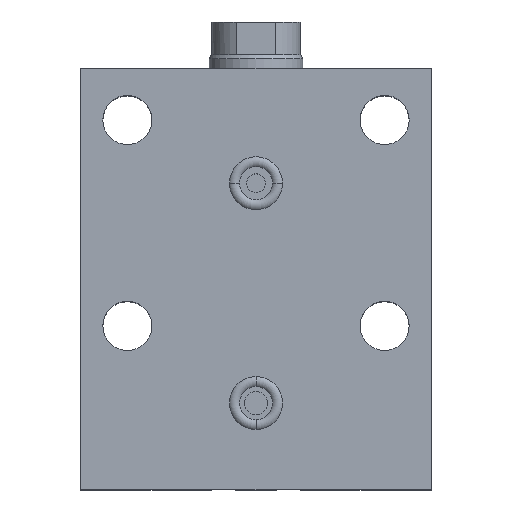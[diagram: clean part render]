
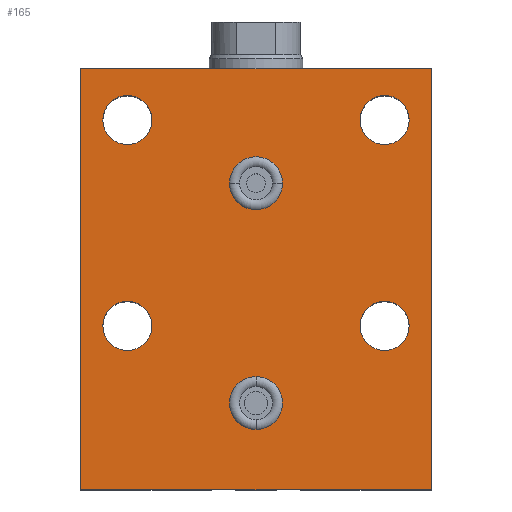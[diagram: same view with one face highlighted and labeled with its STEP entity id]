
A CAD part, top view. The second image highlights one B-rep face of the part: STEP entity #165.
In plain terms, the highlighted planar face has unit normal (0, 0, 1).
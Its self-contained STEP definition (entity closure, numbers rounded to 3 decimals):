
#30 = VERTEX_POINT ( 'NONE', #268 ) ;
#39 = CIRCLE ( 'NONE', #2967, 5.65 ) ;
#46 = EDGE_CURVE ( 'NONE', #2347, #2275, #926, .T. ) ;
#64 = CIRCLE ( 'NONE', #2997, 5.65 ) ;
#108 = CARTESIAN_POINT ( 'NONE',  ( 32.75, 35., 27.5 ) ) ;
#122 = DIRECTION ( 'NONE',  ( 1., 0., 0. ) ) ;
#129 = CIRCLE ( 'NONE', #2993, 5.25 ) ;
#148 = CARTESIAN_POINT ( 'NONE',  ( 37.5, 90., 27.5 ) ) ;
#160 = VERTEX_POINT ( 'NONE', #1846 ) ;
#165 = ADVANCED_FACE ( 'NONE', ( #1963, #781, #1250, #620, #697, #3105, #2468 ), #522, .F. ) ;
#248 = LINE ( 'NONE', #2240, #1511 ) ;
#251 = ORIENTED_EDGE ( 'NONE', *, *, #796, .F. ) ;
#268 = CARTESIAN_POINT ( 'NONE',  ( 22.25, 35., 27.5 ) ) ;
#326 = CIRCLE ( 'NONE', #2440, 5.25 ) ;
#347 = CARTESIAN_POINT ( 'NONE',  ( -27.5, 35., 27.5 ) ) ;
#384 = CARTESIAN_POINT ( 'NONE',  ( -37.5, 65., 27.5 ) ) ;
#388 = DIRECTION ( 'NONE',  ( 1., 0., 0. ) ) ;
#395 = DIRECTION ( 'NONE',  ( 0., 0., -1. ) ) ;
#437 = DIRECTION ( 'NONE',  ( 0., 0., 1. ) ) ;
#506 = VERTEX_POINT ( 'NONE', #2167 ) ;
#522 = PLANE ( 'NONE',  #1474 ) ;
#523 = DIRECTION ( 'NONE',  ( 0., 0., 1. ) ) ;
#552 = CARTESIAN_POINT ( 'NONE',  ( -27.5, 79., 27.5 ) ) ;
#553 = CARTESIAN_POINT ( 'NONE',  ( 27.5, 35., 27.5 ) ) ;
#579 = EDGE_LOOP ( 'NONE', ( #2103, #2673 ) ) ;
#580 = DIRECTION ( 'NONE',  ( 0., 0., 1. ) ) ;
#583 = DIRECTION ( 'NONE',  ( 1., 0., 0. ) ) ;
#597 = DIRECTION ( 'NONE',  ( 0., 0., -1. ) ) ;
#601 = LINE ( 'NONE', #724, #2943 ) ;
#620 = FACE_BOUND ( 'NONE', #1180, .T. ) ;
#645 = DIRECTION ( 'NONE',  ( 0., 0., 1. ) ) ;
#659 = VERTEX_POINT ( 'NONE', #699 ) ;
#671 = EDGE_CURVE ( 'NONE', #877, #30, #2784, .T. ) ;
#697 = FACE_BOUND ( 'NONE', #2782, .T. ) ;
#699 = CARTESIAN_POINT ( 'NONE',  ( -32.75, 35., 27.5 ) ) ;
#721 = CIRCLE ( 'NONE', #2259, 5.65 ) ;
#724 = CARTESIAN_POINT ( 'NONE',  ( -37.5, 90., 27.5 ) ) ;
#757 = CARTESIAN_POINT ( 'NONE',  ( 0., 18.5, 27.5 ) ) ;
#764 = EDGE_CURVE ( 'NONE', #2048, #2193, #2702, .T. ) ;
#781 = FACE_BOUND ( 'NONE', #1804, .T. ) ;
#796 = EDGE_CURVE ( 'NONE', #1513, #1930, #64, .T. ) ;
#806 = DIRECTION ( 'NONE',  ( 1., 0., 0. ) ) ;
#822 = ORIENTED_EDGE ( 'NONE', *, *, #46, .T. ) ;
#877 = VERTEX_POINT ( 'NONE', #108 ) ;
#907 = EDGE_CURVE ( 'NONE', #2275, #506, #248, .T. ) ;
#926 = LINE ( 'NONE', #2386, #1002 ) ;
#931 = CARTESIAN_POINT ( 'NONE',  ( 27.5, 35., 27.5 ) ) ;
#935 = ORIENTED_EDGE ( 'NONE', *, *, #1794, .T. ) ;
#967 = VERTEX_POINT ( 'NONE', #148 ) ;
#992 = DIRECTION ( 'NONE',  ( -1., 0., 0. ) ) ;
#1002 = VECTOR ( 'NONE', #1492, 1000. ) ;
#1039 = VECTOR ( 'NONE', #2758, 1000. ) ;
#1049 = ORIENTED_EDGE ( 'NONE', *, *, #1756, .F. ) ;
#1069 = ORIENTED_EDGE ( 'NONE', *, *, #1524, .F. ) ;
#1131 = ORIENTED_EDGE ( 'NONE', *, *, #764, .F. ) ;
#1153 = DIRECTION ( 'NONE',  ( 1., 0., 0. ) ) ;
#1159 = CARTESIAN_POINT ( 'NONE',  ( 22.25, 79., 27.5 ) ) ;
#1171 = ORIENTED_EDGE ( 'NONE', *, *, #907, .T. ) ;
#1180 = EDGE_LOOP ( 'NONE', ( #1069, #1131 ) ) ;
#1187 = LINE ( 'NONE', #2023, #1039 ) ;
#1193 = CARTESIAN_POINT ( 'NONE',  ( -37.5, 90., 27.5 ) ) ;
#1210 = EDGE_CURVE ( 'NONE', #2347, #967, #601, .T. ) ;
#1227 = CARTESIAN_POINT ( 'NONE',  ( 0., 12.85, 27.5 ) ) ;
#1245 = CARTESIAN_POINT ( 'NONE',  ( 27.5, 79., 27.5 ) ) ;
#1250 = FACE_BOUND ( 'NONE', #1274, .T. ) ;
#1270 = CIRCLE ( 'NONE', #1764, 5.25 ) ;
#1274 = EDGE_LOOP ( 'NONE', ( #2300, #2854 ) ) ;
#1286 = CARTESIAN_POINT ( 'NONE',  ( -5.65, 65.5, 27.5 ) ) ;
#1304 = CIRCLE ( 'NONE', #2644, 5.25 ) ;
#1310 = CARTESIAN_POINT ( 'NONE',  ( -32.75, 79., 27.5 ) ) ;
#1312 = VERTEX_POINT ( 'NONE', #1227 ) ;
#1374 = DIRECTION ( 'NONE',  ( 0., 0., 1. ) ) ;
#1414 = CIRCLE ( 'NONE', #1443, 5.65 ) ;
#1443 = AXIS2_PLACEMENT_3D ( 'NONE', #2838, #1374, #3071 ) ;
#1464 = EDGE_CURVE ( 'NONE', #967, #506, #1187, .T. ) ;
#1474 = AXIS2_PLACEMENT_3D ( 'NONE', #384, #395, #2232 ) ;
#1482 = DIRECTION ( 'NONE',  ( 1., 0., 0. ) ) ;
#1492 = DIRECTION ( 'NONE',  ( 0., -1., 0. ) ) ;
#1511 = VECTOR ( 'NONE', #2261, 1000. ) ;
#1513 = VERTEX_POINT ( 'NONE', #1779 ) ;
#1521 = AXIS2_PLACEMENT_3D ( 'NONE', #553, #523, #388 ) ;
#1522 = CARTESIAN_POINT ( 'NONE',  ( 0., 65.5, 27.5 ) ) ;
#1524 = EDGE_CURVE ( 'NONE', #2193, #2048, #1946, .T. ) ;
#1540 = DIRECTION ( 'NONE',  ( 0., 0., 1. ) ) ;
#1574 = ORIENTED_EDGE ( 'NONE', *, *, #1464, .F. ) ;
#1631 = CARTESIAN_POINT ( 'NONE',  ( -37.5, 0., 27.5 ) ) ;
#1675 = DIRECTION ( 'NONE',  ( 1., 0., 0. ) ) ;
#1694 = EDGE_CURVE ( 'NONE', #1930, #1513, #1414, .T. ) ;
#1700 = VERTEX_POINT ( 'NONE', #3058 ) ;
#1742 = DIRECTION ( 'NONE',  ( 0., 0., 1. ) ) ;
#1753 = DIRECTION ( 'NONE',  ( -1., 0., 0. ) ) ;
#1756 = EDGE_CURVE ( 'NONE', #30, #877, #1270, .T. ) ;
#1764 = AXIS2_PLACEMENT_3D ( 'NONE', #931, #2618, #1153 ) ;
#1779 = CARTESIAN_POINT ( 'NONE',  ( 5.65, 65.5, 27.5 ) ) ;
#1782 = ORIENTED_EDGE ( 'NONE', *, *, #671, .F. ) ;
#1794 = EDGE_CURVE ( 'NONE', #1312, #1700, #721, .T. ) ;
#1804 = EDGE_LOOP ( 'NONE', ( #251, #2218 ) ) ;
#1846 = CARTESIAN_POINT ( 'NONE',  ( -22.25, 35., 27.5 ) ) ;
#1856 = CARTESIAN_POINT ( 'NONE',  ( -27.5, 35., 27.5 ) ) ;
#1925 = CIRCLE ( 'NONE', #3042, 5.25 ) ;
#1930 = VERTEX_POINT ( 'NONE', #1286 ) ;
#1937 = EDGE_LOOP ( 'NONE', ( #1171, #1574, #2125, #822 ) ) ;
#1938 = EDGE_CURVE ( 'NONE', #160, #659, #1304, .T. ) ;
#1946 = CIRCLE ( 'NONE', #1989, 5.25 ) ;
#1963 = FACE_BOUND ( 'NONE', #2855, .T. ) ;
#1964 = EDGE_CURVE ( 'NONE', #1700, #1312, #39, .T. ) ;
#1989 = AXIS2_PLACEMENT_3D ( 'NONE', #3014, #1540, #122 ) ;
#2021 = DIRECTION ( 'NONE',  ( 0., 0., 1. ) ) ;
#2023 = CARTESIAN_POINT ( 'NONE',  ( 37.5, 65., 27.5 ) ) ;
#2029 = CARTESIAN_POINT ( 'NONE',  ( 0., 18.5, 27.5 ) ) ;
#2048 = VERTEX_POINT ( 'NONE', #1310 ) ;
#2074 = CARTESIAN_POINT ( 'NONE',  ( 27.5, 79., 27.5 ) ) ;
#2092 = CARTESIAN_POINT ( 'NONE',  ( -22.25, 79., 27.5 ) ) ;
#2103 = ORIENTED_EDGE ( 'NONE', *, *, #1938, .F. ) ;
#2109 = DIRECTION ( 'NONE',  ( 1., 0., 0. ) ) ;
#2125 = ORIENTED_EDGE ( 'NONE', *, *, #1210, .F. ) ;
#2167 = CARTESIAN_POINT ( 'NONE',  ( 37.5, 0., 27.5 ) ) ;
#2193 = VERTEX_POINT ( 'NONE', #2092 ) ;
#2218 = ORIENTED_EDGE ( 'NONE', *, *, #1694, .F. ) ;
#2232 = DIRECTION ( 'NONE',  ( -1., 0., 0. ) ) ;
#2240 = CARTESIAN_POINT ( 'NONE',  ( -37.5, 0., 27.5 ) ) ;
#2259 = AXIS2_PLACEMENT_3D ( 'NONE', #757, #2433, #992 ) ;
#2261 = DIRECTION ( 'NONE',  ( 1., 0., 0. ) ) ;
#2268 = DIRECTION ( 'NONE',  ( -1., 0., 0. ) ) ;
#2275 = VERTEX_POINT ( 'NONE', #1631 ) ;
#2300 = ORIENTED_EDGE ( 'NONE', *, *, #2895, .F. ) ;
#2320 = DIRECTION ( 'NONE',  ( 1., 0., 0. ) ) ;
#2347 = VERTEX_POINT ( 'NONE', #1193 ) ;
#2386 = CARTESIAN_POINT ( 'NONE',  ( -37.5, 65., 27.5 ) ) ;
#2433 = DIRECTION ( 'NONE',  ( 0., 0., -1. ) ) ;
#2440 = AXIS2_PLACEMENT_3D ( 'NONE', #2074, #645, #2320 ) ;
#2452 = EDGE_CURVE ( 'NONE', #659, #160, #1925, .T. ) ;
#2468 = FACE_OUTER_BOUND ( 'NONE', #1937, .T. ) ;
#2546 = VERTEX_POINT ( 'NONE', #1159 ) ;
#2618 = DIRECTION ( 'NONE',  ( 0., 0., 1. ) ) ;
#2644 = AXIS2_PLACEMENT_3D ( 'NONE', #347, #2021, #583 ) ;
#2673 = ORIENTED_EDGE ( 'NONE', *, *, #2452, .F. ) ;
#2702 = CIRCLE ( 'NONE', #2831, 5.25 ) ;
#2735 = EDGE_CURVE ( 'NONE', #2546, #3029, #129, .T. ) ;
#2758 = DIRECTION ( 'NONE',  ( 0., -1., 0. ) ) ;
#2782 = EDGE_LOOP ( 'NONE', ( #1782, #1049 ) ) ;
#2784 = CIRCLE ( 'NONE', #1521, 5.25 ) ;
#2831 = AXIS2_PLACEMENT_3D ( 'NONE', #552, #580, #806 ) ;
#2838 = CARTESIAN_POINT ( 'NONE',  ( 0., 65.5, 27.5 ) ) ;
#2852 = CARTESIAN_POINT ( 'NONE',  ( 32.75, 79., 27.5 ) ) ;
#2854 = ORIENTED_EDGE ( 'NONE', *, *, #2735, .F. ) ;
#2855 = EDGE_LOOP ( 'NONE', ( #2878, #935 ) ) ;
#2878 = ORIENTED_EDGE ( 'NONE', *, *, #1964, .T. ) ;
#2895 = EDGE_CURVE ( 'NONE', #3029, #2546, #326, .T. ) ;
#2943 = VECTOR ( 'NONE', #1675, 1000. ) ;
#2951 = DIRECTION ( 'NONE',  ( 0., 0., 1. ) ) ;
#2967 = AXIS2_PLACEMENT_3D ( 'NONE', #2029, #597, #2268 ) ;
#2993 = AXIS2_PLACEMENT_3D ( 'NONE', #1245, #2951, #1482 ) ;
#2997 = AXIS2_PLACEMENT_3D ( 'NONE', #1522, #1742, #1753 ) ;
#3014 = CARTESIAN_POINT ( 'NONE',  ( -27.5, 79., 27.5 ) ) ;
#3029 = VERTEX_POINT ( 'NONE', #2852 ) ;
#3042 = AXIS2_PLACEMENT_3D ( 'NONE', #1856, #437, #2109 ) ;
#3058 = CARTESIAN_POINT ( 'NONE',  ( 0., 24.15, 27.5 ) ) ;
#3071 = DIRECTION ( 'NONE',  ( -1., 0., 0. ) ) ;
#3105 = FACE_BOUND ( 'NONE', #579, .T. ) ;
